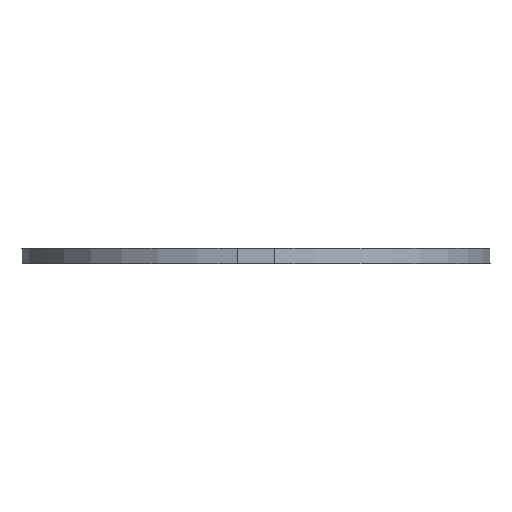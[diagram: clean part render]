
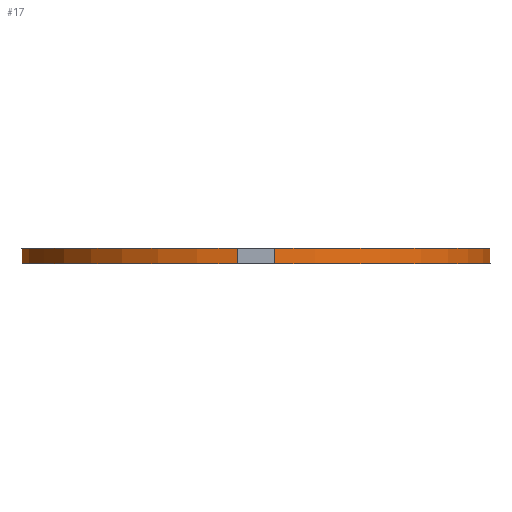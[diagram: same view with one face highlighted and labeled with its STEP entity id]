
A CAD part, front view. The second image highlights one B-rep face of the part: STEP entity #17.
In plain terms, the highlighted cylindrical face has radius 125 mm (diameter 250 mm), a partial arc.
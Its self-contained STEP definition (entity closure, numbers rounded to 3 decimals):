
#17 = ADVANCED_FACE('',(#18),#33,.T.);
#18 = FACE_BOUND('',#19,.F.);
#19 = EDGE_LOOP('',(#20,#56,#84,#117));
#20 = ORIENTED_EDGE('',*,*,#21,.F.);
#21 = EDGE_CURVE('',#22,#24,#26,.T.);
#22 = VERTEX_POINT('',#23);
#23 = CARTESIAN_POINT('',(10.,-102.099,0.));
#24 = VERTEX_POINT('',#25);
#25 = CARTESIAN_POINT('',(-10.,-102.099,0.));
#26 = SURFACE_CURVE('',#27,(#32,#44),.PCURVE_S1.);
#27 = CIRCLE('',#28,125.);
#28 = AXIS2_PLACEMENT_3D('',#29,#30,#31);
#29 = CARTESIAN_POINT('',(0.,22.5,0.));
#30 = DIRECTION('',(0.,0.,1.));
#31 = DIRECTION('',(0.08,-0.997,0.));
#32 = PCURVE('',#33,#38);
#33 = CYLINDRICAL_SURFACE('',#34,125.);
#34 = AXIS2_PLACEMENT_3D('',#35,#36,#37);
#35 = CARTESIAN_POINT('',(0.,22.5,0.));
#36 = DIRECTION('',(-0.,-0.,-1.));
#37 = DIRECTION('',(1.,0.,0.));
#38 = DEFINITIONAL_REPRESENTATION('',(#39),#43);
#39 = LINE('',#40,#41);
#40 = CARTESIAN_POINT('',(-4.792,0.));
#41 = VECTOR('',#42,1.);
#42 = DIRECTION('',(-1.,0.));
#43 = ( GEOMETRIC_REPRESENTATION_CONTEXT(2) 
PARAMETRIC_REPRESENTATION_CONTEXT() REPRESENTATION_CONTEXT('2D SPACE',''
  ) );
#44 = PCURVE('',#45,#50);
#45 = PLANE('',#46);
#46 = AXIS2_PLACEMENT_3D('',#47,#48,#49);
#47 = CARTESIAN_POINT('',(0.,22.5,0.));
#48 = DIRECTION('',(0.,0.,1.));
#49 = DIRECTION('',(1.,0.,-0.));
#50 = DEFINITIONAL_REPRESENTATION('',(#51),#55);
#51 = CIRCLE('',#52,125.);
#52 = AXIS2_PLACEMENT_2D('',#53,#54);
#53 = CARTESIAN_POINT('',(0.,0.));
#54 = DIRECTION('',(0.08,-0.997));
#55 = ( GEOMETRIC_REPRESENTATION_CONTEXT(2) 
PARAMETRIC_REPRESENTATION_CONTEXT() REPRESENTATION_CONTEXT('2D SPACE',''
  ) );
#56 = ORIENTED_EDGE('',*,*,#57,.F.);
#57 = EDGE_CURVE('',#58,#22,#60,.T.);
#58 = VERTEX_POINT('',#59);
#59 = CARTESIAN_POINT('',(10.,-102.099,8.));
#60 = SURFACE_CURVE('',#61,(#65,#72),.PCURVE_S1.);
#61 = LINE('',#62,#63);
#62 = CARTESIAN_POINT('',(10.,-102.099,0.));
#63 = VECTOR('',#64,1.);
#64 = DIRECTION('',(-0.,-0.,-1.));
#65 = PCURVE('',#33,#66);
#66 = DEFINITIONAL_REPRESENTATION('',(#67),#71);
#67 = LINE('',#68,#69);
#68 = CARTESIAN_POINT('',(-4.792,0.));
#69 = VECTOR('',#70,1.);
#70 = DIRECTION('',(-0.,1.));
#71 = ( GEOMETRIC_REPRESENTATION_CONTEXT(2) 
PARAMETRIC_REPRESENTATION_CONTEXT() REPRESENTATION_CONTEXT('2D SPACE',''
  ) );
#72 = PCURVE('',#73,#78);
#73 = PLANE('',#74);
#74 = AXIS2_PLACEMENT_3D('',#75,#76,#77);
#75 = CARTESIAN_POINT('',(10.,-147.5,0.));
#76 = DIRECTION('',(1.,0.,0.));
#77 = DIRECTION('',(0.,0.,1.));
#78 = DEFINITIONAL_REPRESENTATION('',(#79),#83);
#79 = LINE('',#80,#81);
#80 = CARTESIAN_POINT('',(0.,-45.401));
#81 = VECTOR('',#82,1.);
#82 = DIRECTION('',(-1.,0.));
#83 = ( GEOMETRIC_REPRESENTATION_CONTEXT(2) 
PARAMETRIC_REPRESENTATION_CONTEXT() REPRESENTATION_CONTEXT('2D SPACE',''
  ) );
#84 = ORIENTED_EDGE('',*,*,#85,.F.);
#85 = EDGE_CURVE('',#86,#58,#88,.T.);
#86 = VERTEX_POINT('',#87);
#87 = CARTESIAN_POINT('',(-10.,-102.099,8.));
#88 = SURFACE_CURVE('',#89,(#94,#101),.PCURVE_S1.);
#89 = CIRCLE('',#90,125.);
#90 = AXIS2_PLACEMENT_3D('',#91,#92,#93);
#91 = CARTESIAN_POINT('',(0.,22.5,8.));
#92 = DIRECTION('',(-0.,0.,-1.));
#93 = DIRECTION('',(-0.08,-0.997,0.));
#94 = PCURVE('',#33,#95);
#95 = DEFINITIONAL_REPRESENTATION('',(#96),#100);
#96 = LINE('',#97,#98);
#97 = CARTESIAN_POINT('',(-10.915,-8.));
#98 = VECTOR('',#99,1.);
#99 = DIRECTION('',(1.,-0.));
#100 = ( GEOMETRIC_REPRESENTATION_CONTEXT(2) 
PARAMETRIC_REPRESENTATION_CONTEXT() REPRESENTATION_CONTEXT('2D SPACE',''
  ) );
#101 = PCURVE('',#102,#107);
#102 = PLANE('',#103);
#103 = AXIS2_PLACEMENT_3D('',#104,#105,#106);
#104 = CARTESIAN_POINT('',(0.,22.5,8.));
#105 = DIRECTION('',(0.,0.,1.));
#106 = DIRECTION('',(1.,0.,-0.));
#107 = DEFINITIONAL_REPRESENTATION('',(#108),#116);
#108 = ( BOUNDED_CURVE() B_SPLINE_CURVE(2,(#109,#110,#111,#112,#113,#114
,#115),.UNSPECIFIED.,.T.,.F.) B_SPLINE_CURVE_WITH_KNOTS((1,2,2,2,2,1),(
    -2.094,0.,2.094,4.189,6.283,
8.378),.UNSPECIFIED.) CURVE() GEOMETRIC_REPRESENTATION_ITEM() 
RATIONAL_B_SPLINE_CURVE((1.,0.5,1.,0.5,1.,0.5,1.)) REPRESENTATION_ITEM(
  '') );
#109 = CARTESIAN_POINT('',(-10.,-124.599));
#110 = CARTESIAN_POINT('',(-225.812,-107.279));
#111 = CARTESIAN_POINT('',(-102.906,70.96));
#112 = CARTESIAN_POINT('',(20.,249.199));
#113 = CARTESIAN_POINT('',(112.906,53.639));
#114 = CARTESIAN_POINT('',(205.812,-141.92));
#115 = CARTESIAN_POINT('',(-10.,-124.599));
#116 = ( GEOMETRIC_REPRESENTATION_CONTEXT(2) 
PARAMETRIC_REPRESENTATION_CONTEXT() REPRESENTATION_CONTEXT('2D SPACE',''
  ) );
#117 = ORIENTED_EDGE('',*,*,#118,.T.);
#118 = EDGE_CURVE('',#86,#24,#119,.T.);
#119 = SURFACE_CURVE('',#120,(#124,#131),.PCURVE_S1.);
#120 = LINE('',#121,#122);
#121 = CARTESIAN_POINT('',(-10.,-102.099,0.));
#122 = VECTOR('',#123,1.);
#123 = DIRECTION('',(-0.,-0.,-1.));
#124 = PCURVE('',#33,#125);
#125 = DEFINITIONAL_REPRESENTATION('',(#126),#130);
#126 = LINE('',#127,#128);
#127 = CARTESIAN_POINT('',(-10.915,0.));
#128 = VECTOR('',#129,1.);
#129 = DIRECTION('',(-0.,1.));
#130 = ( GEOMETRIC_REPRESENTATION_CONTEXT(2) 
PARAMETRIC_REPRESENTATION_CONTEXT() REPRESENTATION_CONTEXT('2D SPACE',''
  ) );
#131 = PCURVE('',#132,#137);
#132 = PLANE('',#133);
#133 = AXIS2_PLACEMENT_3D('',#134,#135,#136);
#134 = CARTESIAN_POINT('',(-10.,-147.5,0.));
#135 = DIRECTION('',(1.,0.,0.));
#136 = DIRECTION('',(0.,0.,1.));
#137 = DEFINITIONAL_REPRESENTATION('',(#138),#142);
#138 = LINE('',#139,#140);
#139 = CARTESIAN_POINT('',(0.,-45.401));
#140 = VECTOR('',#141,1.);
#141 = DIRECTION('',(-1.,0.));
#142 = ( GEOMETRIC_REPRESENTATION_CONTEXT(2) 
PARAMETRIC_REPRESENTATION_CONTEXT() REPRESENTATION_CONTEXT('2D SPACE',''
  ) );
